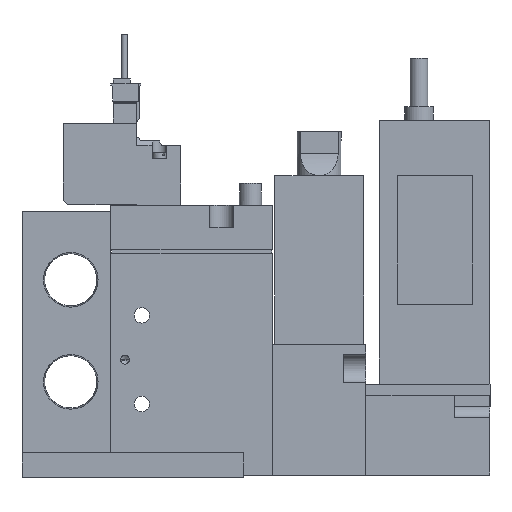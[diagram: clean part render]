
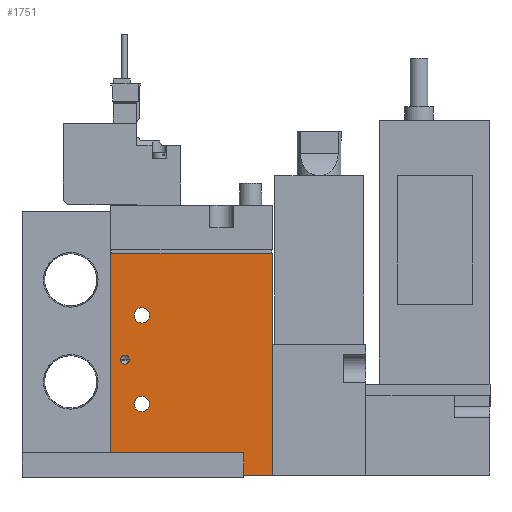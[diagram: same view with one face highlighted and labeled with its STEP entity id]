
A CAD part, left-side view. The second image highlights one B-rep face of the part: STEP entity #1751.
In plain terms, the highlighted planar face has unit normal (-1, 0, 0) as drawn and (1, 0, 0) by its records, which use the part's own axes.
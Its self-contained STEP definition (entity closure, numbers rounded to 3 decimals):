
#1751=ADVANCED_FACE('',(#2680,#2681,#2682,#2683),#2684,.F.);
#2680=FACE_BOUND('',#4542,.T.);
#2681=FACE_BOUND('',#4543,.T.);
#2682=FACE_BOUND('',#4544,.T.);
#2683=FACE_OUTER_BOUND('',#4545,.T.);
#2684=PLANE('',#4546);
#4542=EDGE_LOOP('',(#6822));
#4543=EDGE_LOOP('',(#6823));
#4544=EDGE_LOOP('',(#6824));
#4545=EDGE_LOOP('',(#6825,#6826,#6827,#6828));
#4546=AXIS2_PLACEMENT_3D('',#6829,#6830,#6831);
#6822=ORIENTED_EDGE('',*,*,#12511,.F.);
#6823=ORIENTED_EDGE('',*,*,#12513,.T.);
#6824=ORIENTED_EDGE('',*,*,#12514,.T.);
#6825=ORIENTED_EDGE('',*,*,#12504,.T.);
#6826=ORIENTED_EDGE('',*,*,#12501,.F.);
#6827=ORIENTED_EDGE('',*,*,#12505,.F.);
#6828=ORIENTED_EDGE('',*,*,#12497,.T.);
#6829=CARTESIAN_POINT('',(8.5,-19.444,50.0));
#6830=DIRECTION('',(-1.0,0.0,0.0));
#6831=DIRECTION('',(0.0,0.0,1.0));
#12497=EDGE_CURVE('',#14508,#14506,#14509,.T.);
#12501=EDGE_CURVE('',#14513,#14511,#14515,.T.);
#12504=EDGE_CURVE('',#14506,#14511,#14520,.T.);
#12505=EDGE_CURVE('',#14508,#14513,#14521,.T.);
#12511=EDGE_CURVE('',#14530,#14530,#14531,.T.);
#12513=EDGE_CURVE('',#14532,#14532,#14533,.T.);
#12514=EDGE_CURVE('',#14534,#14534,#14535,.T.);
#14506=VERTEX_POINT('',#17884);
#14508=VERTEX_POINT('',#17887);
#14509=LINE('',#17888,#17889);
#14511=VERTEX_POINT('',#17892);
#14513=VERTEX_POINT('',#17895);
#14515=LINE('',#17898,#17899);
#14520=LINE('',#17904,#17905);
#14521=LINE('',#17906,#17907);
#14530=VERTEX_POINT('',#17916);
#14531=CIRCLE('',#17917,1.0);
#14532=VERTEX_POINT('',#17918);
#14533=CIRCLE('',#17919,1.75);
#14534=VERTEX_POINT('',#17920);
#14535=CIRCLE('',#17921,1.75);
#17884=CARTESIAN_POINT('',(8.5,-19.444,0.0));
#17887=CARTESIAN_POINT('',(8.5,-19.444,50.0));
#17888=CARTESIAN_POINT('',(8.5,-19.444,50.0));
#17889=VECTOR('',#22470,1.0);
#17892=CARTESIAN_POINT('',(8.5,17.056,0.0));
#17895=CARTESIAN_POINT('',(8.5,17.056,50.0));
#17898=CARTESIAN_POINT('',(8.5,17.056,50.0));
#17899=VECTOR('',#22474,1.0);
#17904=CARTESIAN_POINT('',(8.5,-19.444,0.0));
#17905=VECTOR('',#22481,1.0);
#17906=CARTESIAN_POINT('',(8.5,-19.444,50.0));
#17907=VECTOR('',#22482,1.0);
#17916=CARTESIAN_POINT('',(8.5,-17.244,26.0));
#17917=AXIS2_PLACEMENT_3D('',#22495,#22496,#22497);
#17918=CARTESIAN_POINT('',(8.5,-10.694,36.0));
#17919=AXIS2_PLACEMENT_3D('',#22498,#22499,#22500);
#17920=CARTESIAN_POINT('',(8.5,-10.694,16.0));
#17921=AXIS2_PLACEMENT_3D('',#22501,#22502,#22503);
#22470=DIRECTION('',(0.0,0.0,-1.0));
#22474=DIRECTION('',(0.0,0.0,-1.0));
#22481=DIRECTION('',(0.0,1.0,0.0));
#22482=DIRECTION('',(0.0,1.0,0.0));
#22495=CARTESIAN_POINT('',(8.5,-16.244,26.0));
#22496=DIRECTION('',(1.0,0.,0.0));
#22497=DIRECTION('',(0.,-1.0,0.0));
#22498=CARTESIAN_POINT('',(8.5,-12.444,36.0));
#22499=DIRECTION('',(-1.0,0.0,0.0));
#22500=DIRECTION('',(0.0,1.0,0.0));
#22501=CARTESIAN_POINT('',(8.5,-12.444,16.0));
#22502=DIRECTION('',(-1.0,0.0,0.0));
#22503=DIRECTION('',(0.0,1.0,0.0));
